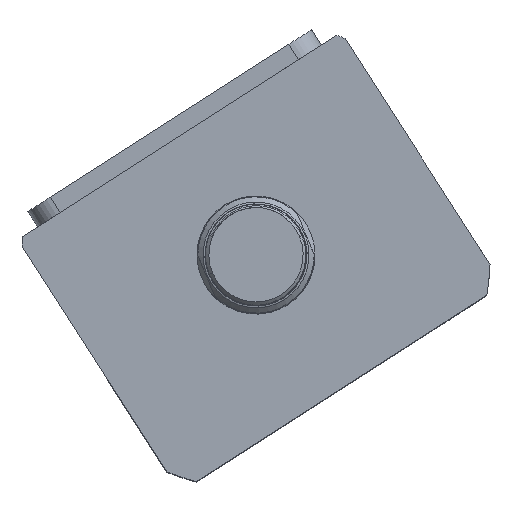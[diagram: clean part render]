
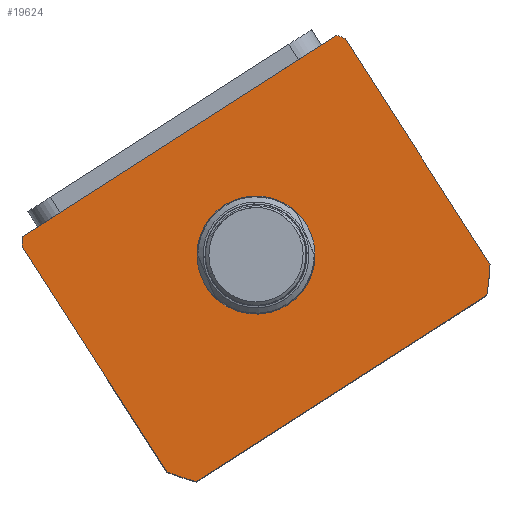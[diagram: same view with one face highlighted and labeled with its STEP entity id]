
A CAD part, top view. The second image highlights one B-rep face of the part: STEP entity #19624.
In plain terms, the highlighted planar face has unit normal (0, 0, 1) as drawn and (0, 0, -1) by its records, which use the part's own axes.
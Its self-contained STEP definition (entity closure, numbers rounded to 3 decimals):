
#388 = CARTESIAN_POINT ( 'NONE',  ( 57., -99.262, 0. ) ) ;
#453 = DIRECTION ( 'NONE',  ( 1., 0., 0. ) ) ;
#900 = EDGE_CURVE ( 'NONE', #11651, #6015, #15397, .T. ) ;
#995 = ORIENTED_EDGE ( 'NONE', *, *, #26351, .F. ) ;
#1623 = AXIS2_PLACEMENT_3D ( 'NONE', #15030, #8730, #16238 ) ;
#1635 = DIRECTION ( 'NONE',  ( 1., 0., 0. ) ) ;
#1652 = FACE_OUTER_BOUND ( 'NONE', #13440, .T. ) ;
#1932 = ORIENTED_EDGE ( 'NONE', *, *, #21618, .F. ) ;
#2428 = CARTESIAN_POINT ( 'NONE',  ( 0., -59.497, 0. ) ) ;
#2491 = EDGE_CURVE ( 'NONE', #2891, #11651, #2572, .T. ) ;
#2572 = CIRCLE ( 'NONE', #17280, 69.5 ) ;
#2891 = VERTEX_POINT ( 'NONE', #13833 ) ;
#3581 = ORIENTED_EDGE ( 'NONE', *, *, #20691, .F. ) ;
#3799 = ORIENTED_EDGE ( 'NONE', *, *, #900, .F. ) ;
#4084 = CARTESIAN_POINT ( 'NONE',  ( 57., -19.732, 0. ) ) ;
#4608 = DIRECTION ( 'NONE',  ( 1., 0., 0. ) ) ;
#5106 = EDGE_CURVE ( 'NONE', #21342, #6688, #17237, .T. ) ;
#5382 = FACE_BOUND ( 'NONE', #6575, .T. ) ;
#6015 = VERTEX_POINT ( 'NONE', #4084 ) ;
#6088 = AXIS2_PLACEMENT_3D ( 'NONE', #8407, #23512, #10570 ) ;
#6575 = EDGE_LOOP ( 'NONE', ( #14129, #22792 ) ) ;
#6688 = VERTEX_POINT ( 'NONE', #17411 ) ;
#6789 = CARTESIAN_POINT ( 'NONE',  ( 57., -17.497, 0. ) ) ;
#6941 = CIRCLE ( 'NONE', #6088, 69.5 ) ;
#6968 = DIRECTION ( 'NONE',  ( 0., 1., 0. ) ) ;
#8204 = AXIS2_PLACEMENT_3D ( 'NONE', #22673, #9732, #24811 ) ;
#8338 = VECTOR ( 'NONE', #1635, 1000. ) ;
#8407 = CARTESIAN_POINT ( 'NONE',  ( 0., -59.497, 0. ) ) ;
#8528 = CARTESIAN_POINT ( 'NONE',  ( 0., -59.497, 0. ) ) ;
#8730 = DIRECTION ( 'NONE',  ( 0., 0., 1. ) ) ;
#8868 = VECTOR ( 'NONE', #22488, 1000. ) ;
#9596 = DIRECTION ( 'NONE',  ( 0., 0., 1. ) ) ;
#9685 = VECTOR ( 'NONE', #6968, 1000. ) ;
#9732 = DIRECTION ( 'NONE',  ( 0., 0., 1. ) ) ;
#10202 = EDGE_CURVE ( 'NONE', #6688, #21342, #26247, .T. ) ;
#10570 = DIRECTION ( 'NONE',  ( 1., 0., 0. ) ) ;
#10581 = VECTOR ( 'NONE', #24548, 1000. ) ;
#10701 = DIRECTION ( 'NONE',  ( 1., 0., 0. ) ) ;
#11168 = AXIS2_PLACEMENT_3D ( 'NONE', #2428, #17495, #4608 ) ;
#11476 = CARTESIAN_POINT ( 'NONE',  ( -55.374, -17.497, 0. ) ) ;
#11624 = ORIENTED_EDGE ( 'NONE', *, *, #18583, .F. ) ;
#11651 = VERTEX_POINT ( 'NONE', #388 ) ;
#11709 = AXIS2_PLACEMENT_3D ( 'NONE', #8528, #23644, #10701 ) ;
#12784 = CARTESIAN_POINT ( 'NONE',  ( -57., -99.262, 0. ) ) ;
#12856 = AXIS2_PLACEMENT_3D ( 'NONE', #22545, #9596, #24690 ) ;
#13343 = DIRECTION ( 'NONE',  ( 0., 0., 1. ) ) ;
#13440 = EDGE_LOOP ( 'NONE', ( #3581, #3799, #17748, #1932, #17177, #11624, #995, #19044 ) ) ;
#13833 = CARTESIAN_POINT ( 'NONE',  ( 51.198, -106.497, 0. ) ) ;
#14129 = ORIENTED_EDGE ( 'NONE', *, *, #10202, .T. ) ;
#14407 = EDGE_CURVE ( 'NONE', #24218, #19814, #6941, .T. ) ;
#14585 = LINE ( 'NONE', #20312, #8868 ) ;
#15030 = CARTESIAN_POINT ( 'NONE',  ( 0., 0., 0. ) ) ;
#15052 = CARTESIAN_POINT ( 'NONE',  ( -51.198, -106.497, 0. ) ) ;
#15097 = CIRCLE ( 'NONE', #11168, 69.5 ) ;
#15397 = LINE ( 'NONE', #6789, #9685 ) ;
#16238 = DIRECTION ( 'NONE',  ( 1., 0., 0. ) ) ;
#17177 = ORIENTED_EDGE ( 'NONE', *, *, #14407, .F. ) ;
#17237 = CIRCLE ( 'NONE', #11709, 17.5 ) ;
#17280 = AXIS2_PLACEMENT_3D ( 'NONE', #26265, #13343, #453 ) ;
#17342 = CARTESIAN_POINT ( 'NONE',  ( 55.374, -17.497, 0. ) ) ;
#17411 = CARTESIAN_POINT ( 'NONE',  ( 17.5, -59.497, 0. ) ) ;
#17476 = EDGE_CURVE ( 'NONE', #17856, #19076, #21377, .T. ) ;
#17495 = DIRECTION ( 'NONE',  ( 0., 0., 1. ) ) ;
#17547 = CARTESIAN_POINT ( 'NONE',  ( -17.5, -59.497, 0. ) ) ;
#17748 = ORIENTED_EDGE ( 'NONE', *, *, #2491, .F. ) ;
#17856 = VERTEX_POINT ( 'NONE', #17342 ) ;
#18583 = EDGE_CURVE ( 'NONE', #27546, #24218, #14585, .T. ) ;
#19044 = ORIENTED_EDGE ( 'NONE', *, *, #17476, .F. ) ;
#19076 = VERTEX_POINT ( 'NONE', #11476 ) ;
#19624 = ADVANCED_FACE ( 'NONE', ( #5382, #1652 ), #21652, .F. ) ;
#19814 = VERTEX_POINT ( 'NONE', #15052 ) ;
#19965 = CARTESIAN_POINT ( 'NONE',  ( -57., -19.732, 0. ) ) ;
#20312 = CARTESIAN_POINT ( 'NONE',  ( -57., -17.497, 0. ) ) ;
#20691 = EDGE_CURVE ( 'NONE', #6015, #17856, #15097, .T. ) ;
#20855 = CARTESIAN_POINT ( 'NONE',  ( -57., -106.497, 0. ) ) ;
#21342 = VERTEX_POINT ( 'NONE', #17547 ) ;
#21377 = LINE ( 'NONE', #24361, #10581 ) ;
#21618 = EDGE_CURVE ( 'NONE', #19814, #2891, #25554, .T. ) ;
#21652 = PLANE ( 'NONE',  #1623 ) ;
#21928 = CIRCLE ( 'NONE', #12856, 69.5 ) ;
#22488 = DIRECTION ( 'NONE',  ( 0., -1., 0. ) ) ;
#22545 = CARTESIAN_POINT ( 'NONE',  ( 0., -59.497, 0. ) ) ;
#22673 = CARTESIAN_POINT ( 'NONE',  ( 0., -59.497, 0. ) ) ;
#22792 = ORIENTED_EDGE ( 'NONE', *, *, #5106, .T. ) ;
#23512 = DIRECTION ( 'NONE',  ( 0., 0., 1. ) ) ;
#23644 = DIRECTION ( 'NONE',  ( 0., 0., 1. ) ) ;
#24218 = VERTEX_POINT ( 'NONE', #12784 ) ;
#24361 = CARTESIAN_POINT ( 'NONE',  ( -57., -17.497, 0. ) ) ;
#24548 = DIRECTION ( 'NONE',  ( -1., 0., 0. ) ) ;
#24690 = DIRECTION ( 'NONE',  ( 1., 0., 0. ) ) ;
#24811 = DIRECTION ( 'NONE',  ( 1., 0., 0. ) ) ;
#25554 = LINE ( 'NONE', #20855, #8338 ) ;
#26247 = CIRCLE ( 'NONE', #8204, 17.5 ) ;
#26265 = CARTESIAN_POINT ( 'NONE',  ( 0., -59.497, 0. ) ) ;
#26351 = EDGE_CURVE ( 'NONE', #19076, #27546, #21928, .T. ) ;
#27546 = VERTEX_POINT ( 'NONE', #19965 ) ;
